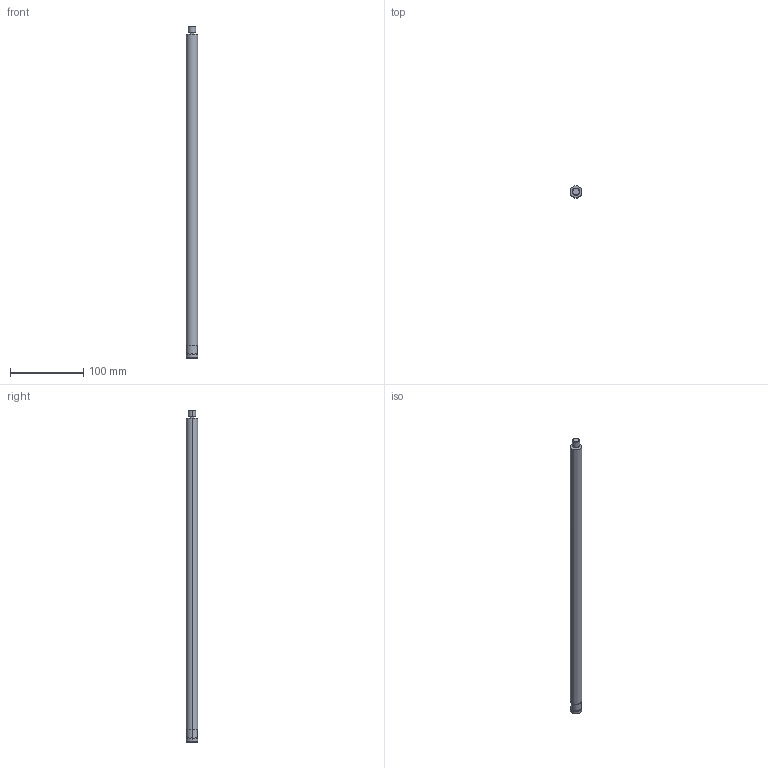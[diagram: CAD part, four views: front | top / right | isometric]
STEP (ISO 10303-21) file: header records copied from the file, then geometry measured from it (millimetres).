
FILE_DESCRIPTION (( 'STEP AP214' ), '1' );
FILE_NAME ('129.STEP', '2024-09-18T08:41:13', ( '' ), ( '' ), 'SwSTEP 2.0', 'SolidWorks 2021', '' );
FILE_SCHEMA (( 'AUTOMOTIVE_DESIGN' ));
Length unit declared in the file: millimetre
Products named in the file (1): 129
Bounding box: 16 x 16 x 454 mm (x, y, z)
Volume: 89525.8 mm3; surface area: 23034.5 mm2
Topology: 1 solids, 1 shells, 22 faces, 42 edges, 24 vertices
Faces by surface type: cylinder 10, cone 8, plane 4
Entity records: 610 total; most frequent: DIRECTION 112, CARTESIAN_POINT 89, ORIENTED_EDGE 84, AXIS2_PLACEMENT_3D 47, EDGE_CURVE 42, VERTEX_POINT 24, CIRCLE 24, EDGE_LOOP 24
